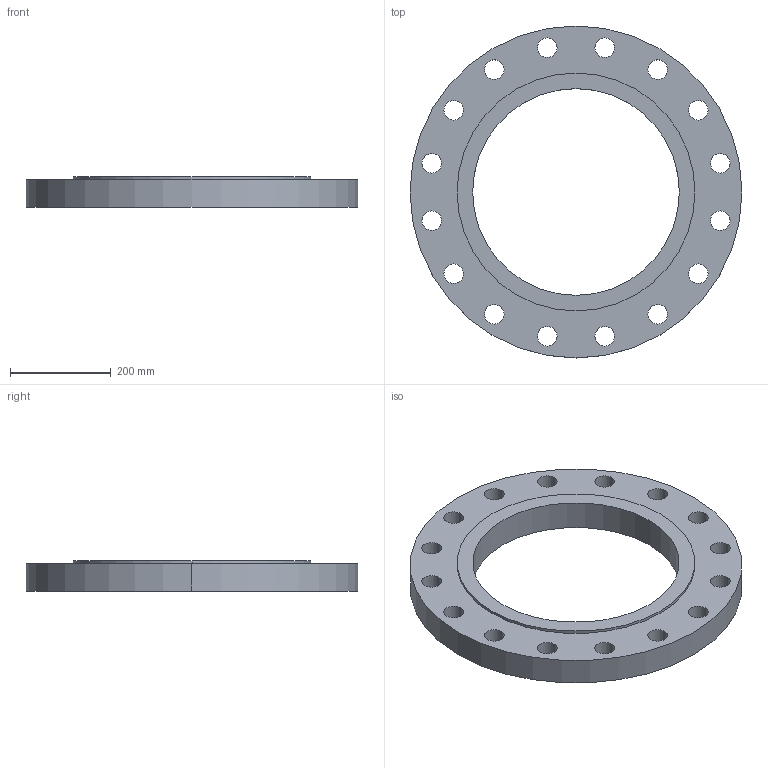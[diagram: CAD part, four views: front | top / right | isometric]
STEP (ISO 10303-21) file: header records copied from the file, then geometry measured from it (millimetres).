
FILE_DESCRIPTION (( 'STEP AP214' ), '1' );
FILE_NAME ('PN40 DN400 Type 01 - Type E Face.STEP', '2019-01-05T23:24:21', ( '' ), ( '' ), 'SwSTEP 2.0', 'SolidWorks 2019', '' );
FILE_SCHEMA (( 'AUTOMOTIVE_DESIGN' ));
Length unit declared in the file: millimetre
Products named in the file (1): PN40 DN400 Type 01 - Type E Face
Bounding box: 660 x 660 x 60 mm (x, y, z)
Volume: 10610051.8 mm3; surface area: 686158.4 mm2
Topology: 1 solids, 1 shells, 41 faces, 114 edges, 76 vertices
Faces by surface type: cylinder 38, plane 3
Entity records: 1466 total; most frequent: DIRECTION 274, CARTESIAN_POINT 232, ORIENTED_EDGE 228, AXIS2_PLACEMENT_3D 118, EDGE_CURVE 114, CIRCLE 76, EDGE_LOOP 76, VERTEX_POINT 76
